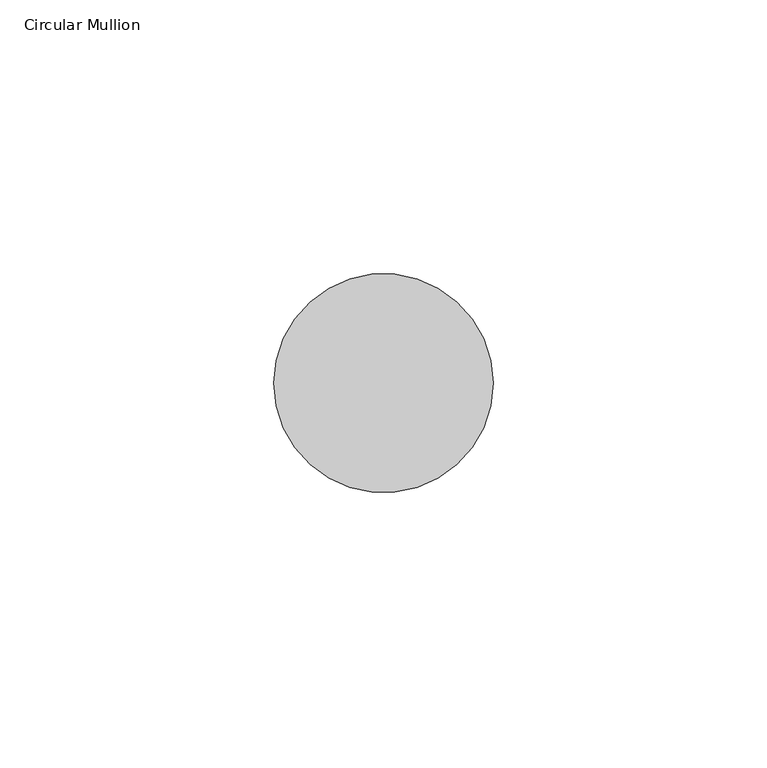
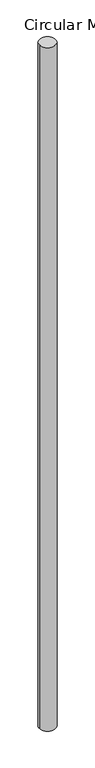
"""IFC4 building model written with IfcOpenShell, lengths in millimetres: member geometry, Circular Mullion : GRADIL 40mm."""

from ifc_helpers import new_model, si_unit, point, frame, origin, origin_2d, place, context, project, spatial, circle_curve, trimmed, segment, composite_curve, outline, extrude, source, transform, mapped, element, save


def circular_mullion_d627afaf(model_context):
    return source(origin(), model_context, "Body", "SweptSolid", [
        extrude(outline(composite_curve([segment(trimmed(circle_curve(origin_2d(), 20.0), [point((20.0, 0.0))], [point((-20.0, 0.0))], False, "CARTESIAN"), True, "CONTINUOUS"), segment(trimmed(circle_curve(origin_2d(), 20.0), [point((-20.0, 0.0))], [point((20.0, 0.0))], False, "CARTESIAN"), True, "CONTINUOUS")], self_intersect=False)), frame((0.0, 0.0, -1781.8886643), z_axis=(0.0, 0.0, 1.0), x_axis=(1.0, 0.0, 0.0)), (0.0, 0.0, 1.0), 1781.8886643),
    ])


if __name__ == "__main__":
    model = new_model("IFC4")
    model_context = context("Model", 3, world=origin())
    ifc_project = project(units=[si_unit("LENGTHUNIT", "METRE", prefix="MILLI")], contexts=[model_context])
    site = spatial("IfcSite", under=ifc_project)
    building = spatial("IfcBuilding", under=site)
    placement = place(None, origin())
    circular_mullion_shape = circular_mullion_d627afaf(model_context)
    element("IfcMember", 1, ObjectType="Circular Mullion : GRADIL 40mm", at=placement, inside=building, context=model_context, shape_type="MappedRepresentation", body=[
        mapped(circular_mullion_shape, transform((0.0, 0.0, 0.0), x_axis=(1.0, 0.0, 0.0), y_axis=(0.0, 1.0, 0.0), z_axis=(0.0, 0.0, 1.0))),
    ])
    save(model, "model.ifc")
